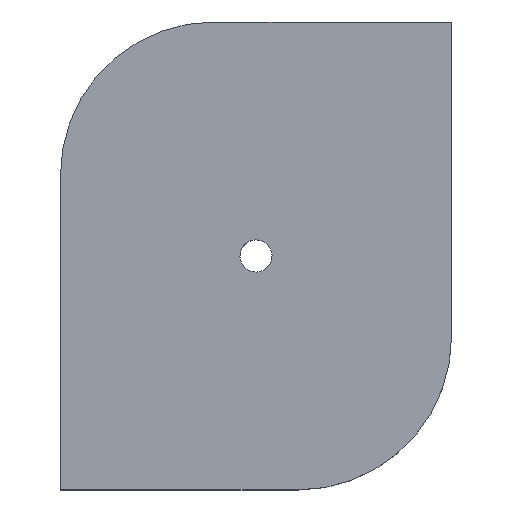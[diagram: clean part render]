
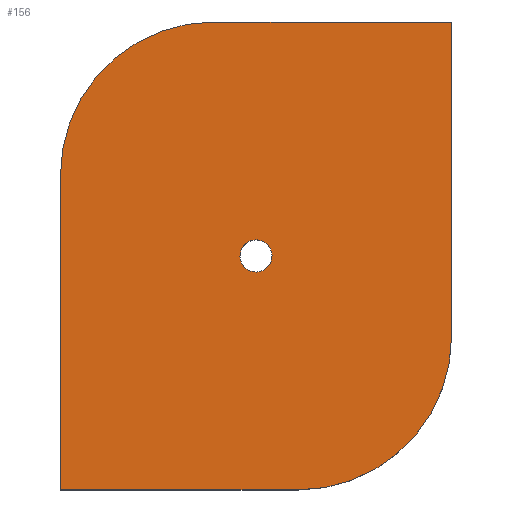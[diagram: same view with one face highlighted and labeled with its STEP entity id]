
A CAD part, top view. The second image highlights one B-rep face of the part: STEP entity #156.
In plain terms, the highlighted planar face has unit normal (0, 0, 1).
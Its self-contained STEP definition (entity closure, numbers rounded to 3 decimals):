
#63=CARTESIAN_POINT('Vertex',(47.325,63.008,17.)) ;
#77=CARTESIAN_POINT('Vertex',(54.675,58.992,17.)) ;
#80=CARTESIAN_POINT('Axis2P3D Location',(51.,61.,17.)) ;
#92=CARTESIAN_POINT('Axis2P3D Location',(0.,0.,17.)) ;
#97=CARTESIAN_POINT('Line Origine',(0.,41.,17.)) ;
#101=CARTESIAN_POINT('Vertex',(0.,82.,17.)) ;
#103=CARTESIAN_POINT('Vertex',(0.,0.,17.)) ;
#106=CARTESIAN_POINT('Line Origine',(31.,0.,17.)) ;
#110=CARTESIAN_POINT('Vertex',(62.,0.,17.)) ;
#113=CARTESIAN_POINT('Axis2P3D Location',(62.,40.,17.)) ;
#117=CARTESIAN_POINT('Vertex',(102.,40.,17.)) ;
#120=CARTESIAN_POINT('Line Origine',(102.,81.,17.)) ;
#124=CARTESIAN_POINT('Vertex',(102.,122.,17.)) ;
#127=CARTESIAN_POINT('Line Origine',(71.,122.,17.)) ;
#131=CARTESIAN_POINT('Vertex',(40.,122.,17.)) ;
#134=CARTESIAN_POINT('Axis2P3D Location',(40.,82.,17.)) ;
#147=CARTESIAN_POINT('Axis2P3D Location',(51.,61.,17.)) ;
#81=DIRECTION('Axis2P3D Direction',(0.,-0.,-1.)) ;
#93=DIRECTION('Axis2P3D Direction',(0.,0.,1.)) ;
#94=DIRECTION('Axis2P3D XDirection',(1.,0.,0.)) ;
#98=DIRECTION('Vector Direction',(0.,-1.,0.)) ;
#107=DIRECTION('Vector Direction',(1.,0.,0.)) ;
#114=DIRECTION('Axis2P3D Direction',(0.,0.,1.)) ;
#121=DIRECTION('Vector Direction',(0.,1.,0.)) ;
#128=DIRECTION('Vector Direction',(-1.,0.,0.)) ;
#135=DIRECTION('Axis2P3D Direction',(0.,0.,1.)) ;
#148=DIRECTION('Axis2P3D Direction',(0.,0.,1.)) ;
#82=AXIS2_PLACEMENT_3D('Circle Axis2P3D',#80,#81,$) ;
#95=AXIS2_PLACEMENT_3D('Plane Axis2P3D',#92,#93,#94) ;
#115=AXIS2_PLACEMENT_3D('Circle Axis2P3D',#113,#114,$) ;
#136=AXIS2_PLACEMENT_3D('Circle Axis2P3D',#134,#135,$) ;
#149=AXIS2_PLACEMENT_3D('Circle Axis2P3D',#147,#148,$) ;
#140=ORIENTED_EDGE('',*,*,#105,.T.) ;
#141=ORIENTED_EDGE('',*,*,#112,.T.) ;
#142=ORIENTED_EDGE('',*,*,#119,.F.) ;
#143=ORIENTED_EDGE('',*,*,#126,.T.) ;
#144=ORIENTED_EDGE('',*,*,#133,.T.) ;
#145=ORIENTED_EDGE('',*,*,#138,.F.) ;
#153=ORIENTED_EDGE('',*,*,#151,.F.) ;
#154=ORIENTED_EDGE('',*,*,#84,.F.) ;
#155=FACE_BOUND('',#152,.T.) ;
#99=VECTOR('Line Direction',#98,1.) ;
#108=VECTOR('Line Direction',#107,1.) ;
#122=VECTOR('Line Direction',#121,1.) ;
#129=VECTOR('Line Direction',#128,1.) ;
#156=ADVANCED_FACE('PartBody',(#146,#155),#96,.T.) ;
#83=CIRCLE('generated circle',#82,4.188) ;
#116=CIRCLE('generated circle',#115,40.) ;
#137=CIRCLE('generated circle',#136,40.) ;
#150=CIRCLE('generated circle',#149,4.188) ;
#84=EDGE_CURVE('',#78,#64,#83,.F.) ;
#105=EDGE_CURVE('',#102,#104,#100,.T.) ;
#112=EDGE_CURVE('',#104,#111,#109,.T.) ;
#119=EDGE_CURVE('',#118,#111,#116,.F.) ;
#126=EDGE_CURVE('',#118,#125,#123,.T.) ;
#133=EDGE_CURVE('',#125,#132,#130,.T.) ;
#138=EDGE_CURVE('',#102,#132,#137,.F.) ;
#151=EDGE_CURVE('',#64,#78,#150,.T.) ;
#139=EDGE_LOOP('',(#140,#141,#142,#143,#144,#145)) ;
#152=EDGE_LOOP('',(#153,#154)) ;
#146=FACE_OUTER_BOUND('',#139,.T.) ;
#100=LINE('Line',#97,#99) ;
#109=LINE('Line',#106,#108) ;
#123=LINE('Line',#120,#122) ;
#130=LINE('Line',#127,#129) ;
#96=PLANE('',#95) ;
#64=VERTEX_POINT('',#63) ;
#78=VERTEX_POINT('',#77) ;
#102=VERTEX_POINT('',#101) ;
#104=VERTEX_POINT('',#103) ;
#111=VERTEX_POINT('',#110) ;
#118=VERTEX_POINT('',#117) ;
#125=VERTEX_POINT('',#124) ;
#132=VERTEX_POINT('',#131) ;
